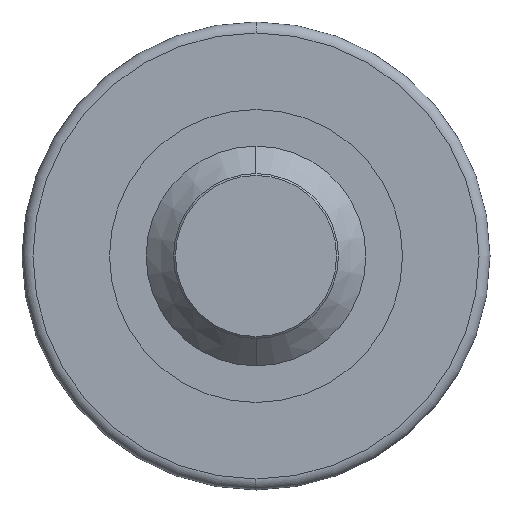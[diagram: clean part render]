
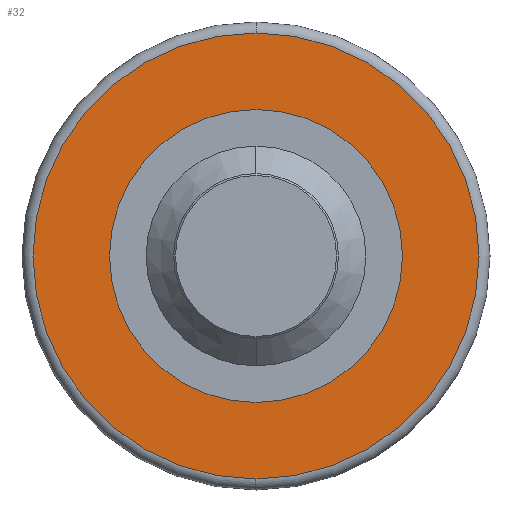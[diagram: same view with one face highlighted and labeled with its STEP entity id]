
A CAD part, left-side view. The second image highlights one B-rep face of the part: STEP entity #32.
In plain terms, the highlighted planar face has unit normal (-1, 0, 0).
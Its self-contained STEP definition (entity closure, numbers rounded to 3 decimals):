
#9 = EDGE_LOOP ( 'NONE', ( #503, #274 ) ) ;
#12 = DIRECTION ( 'NONE',  ( 0., 0., 1. ) ) ;
#32 = ADVANCED_FACE ( 'NONE', ( #277, #511 ), #83, .T. ) ;
#51 = CARTESIAN_POINT ( 'NONE',  ( 30.3, 0., 0. ) ) ;
#59 = EDGE_CURVE ( 'NONE', #667, #600, #716, .T. ) ;
#79 = DIRECTION ( 'NONE',  ( 1., 0., 0. ) ) ;
#81 = CARTESIAN_POINT ( 'NONE',  ( 30.3, 0., 40. ) ) ;
#83 = PLANE ( 'NONE',  #221 ) ;
#128 = EDGE_LOOP ( 'NONE', ( #453, #265 ) ) ;
#151 = CIRCLE ( 'NONE', #731, 40. ) ;
#168 = AXIS2_PLACEMENT_3D ( 'NONE', #51, #394, #746 ) ;
#183 = AXIS2_PLACEMENT_3D ( 'NONE', #485, #79, #421 ) ;
#191 = DIRECTION ( 'NONE',  ( 0., 0., 1. ) ) ;
#221 = AXIS2_PLACEMENT_3D ( 'NONE', #722, #605, #191 ) ;
#251 = EDGE_CURVE ( 'NONE', #600, #667, #151, .T. ) ;
#265 = ORIENTED_EDGE ( 'NONE', *, *, #251, .T. ) ;
#274 = ORIENTED_EDGE ( 'NONE', *, *, #607, .T. ) ;
#277 = FACE_OUTER_BOUND ( 'NONE', #9, .T. ) ;
#289 = DIRECTION ( 'NONE',  ( 0., 0., -1. ) ) ;
#294 = CIRCLE ( 'NONE', #168, 60.9 ) ;
#309 = EDGE_CURVE ( 'NONE', #623, #377, #294, .T. ) ;
#324 = DIRECTION ( 'NONE',  ( -1., 0., 0. ) ) ;
#331 = CARTESIAN_POINT ( 'NONE',  ( 30.3, 0., -40. ) ) ;
#347 = CARTESIAN_POINT ( 'NONE',  ( 30.3, 0., 0. ) ) ;
#354 = CARTESIAN_POINT ( 'NONE',  ( 30.3, 0., 0. ) ) ;
#377 = VERTEX_POINT ( 'NONE', #724 ) ;
#394 = DIRECTION ( 'NONE',  ( -1., 0., 0. ) ) ;
#421 = DIRECTION ( 'NONE',  ( 0., 0., -1. ) ) ;
#453 = ORIENTED_EDGE ( 'NONE', *, *, #59, .T. ) ;
#485 = CARTESIAN_POINT ( 'NONE',  ( 30.3, 0., 0. ) ) ;
#503 = ORIENTED_EDGE ( 'NONE', *, *, #309, .T. ) ;
#511 = FACE_BOUND ( 'NONE', #128, .T. ) ;
#543 = CIRCLE ( 'NONE', #661, 60.9 ) ;
#600 = VERTEX_POINT ( 'NONE', #81 ) ;
#605 = DIRECTION ( 'NONE',  ( -1., 0., 0. ) ) ;
#607 = EDGE_CURVE ( 'NONE', #377, #623, #543, .T. ) ;
#623 = VERTEX_POINT ( 'NONE', #642 ) ;
#642 = CARTESIAN_POINT ( 'NONE',  ( 30.3, 0., 60.9 ) ) ;
#661 = AXIS2_PLACEMENT_3D ( 'NONE', #354, #324, #12 ) ;
#667 = VERTEX_POINT ( 'NONE', #331 ) ;
#700 = DIRECTION ( 'NONE',  ( 1., 0., 0. ) ) ;
#716 = CIRCLE ( 'NONE', #183, 40. ) ;
#722 = CARTESIAN_POINT ( 'NONE',  ( 30.3, 0., -61.5 ) ) ;
#724 = CARTESIAN_POINT ( 'NONE',  ( 30.3, 0., -60.9 ) ) ;
#731 = AXIS2_PLACEMENT_3D ( 'NONE', #347, #700, #289 ) ;
#746 = DIRECTION ( 'NONE',  ( 0., 0., 1. ) ) ;
